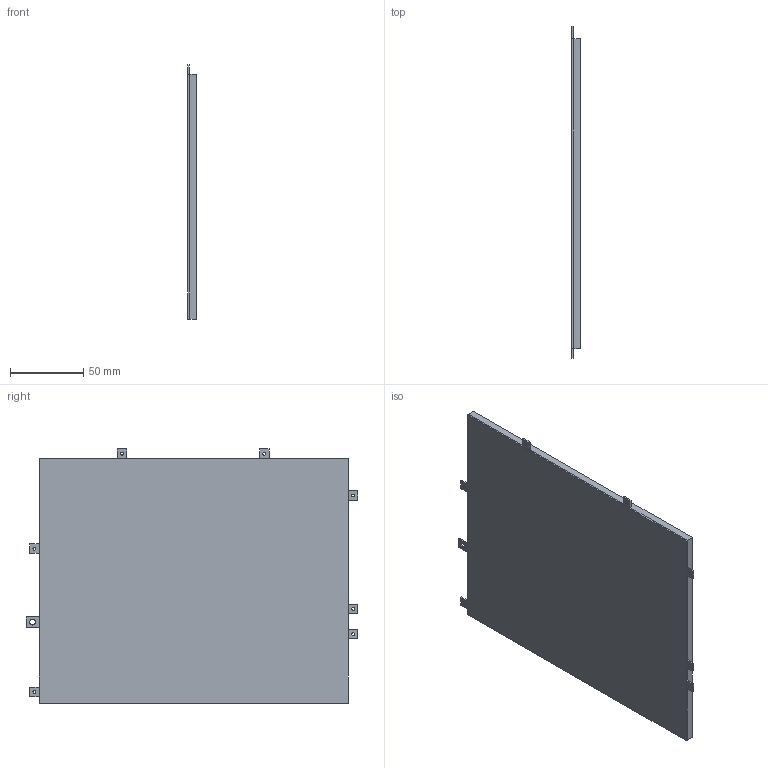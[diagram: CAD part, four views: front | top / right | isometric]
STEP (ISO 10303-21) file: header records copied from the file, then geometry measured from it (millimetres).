
FILE_DESCRIPTION(('FreeCAD Model'),'2;1');
FILE_NAME('/home/bluelambda/Documents/Arcade/meca/LP097X02.stp', '2016-03-28T17:01:38',('Author'),(''), 'Open CASCADE STEP processor 6.9','FreeCAD','Unknown');
FILE_SCHEMA(('AUTOMOTIVE_DESIGN { 1 0 10303 214 1 1 1 1 }'));
Length unit declared in the file: millimetre
Products named in the file (2): LP097X02_solid; screw_holes_solid
Bounding box: 5.82 x 226.03 x 173.03 mm (x, y, z)
Volume: 210438.3 mm3; surface area: 146988.4 mm2
Topology: 10 solids, 10 shells, 73 faces, 156 edges, 104 vertices
Faces by surface type: plane 65, cylinder 8
Full cylindrical faces by diameter (mm): 2 x7, 4 x1
Entity records: 4218 total; most frequent: CARTESIAN_POINT 742, DIRECTION 616, LINE 436, VECTOR 436, ORIENTED_EDGE 312, PCURVE 312, DEFINITIONAL_REPRESENTATION 312, EDGE_CURVE 156
